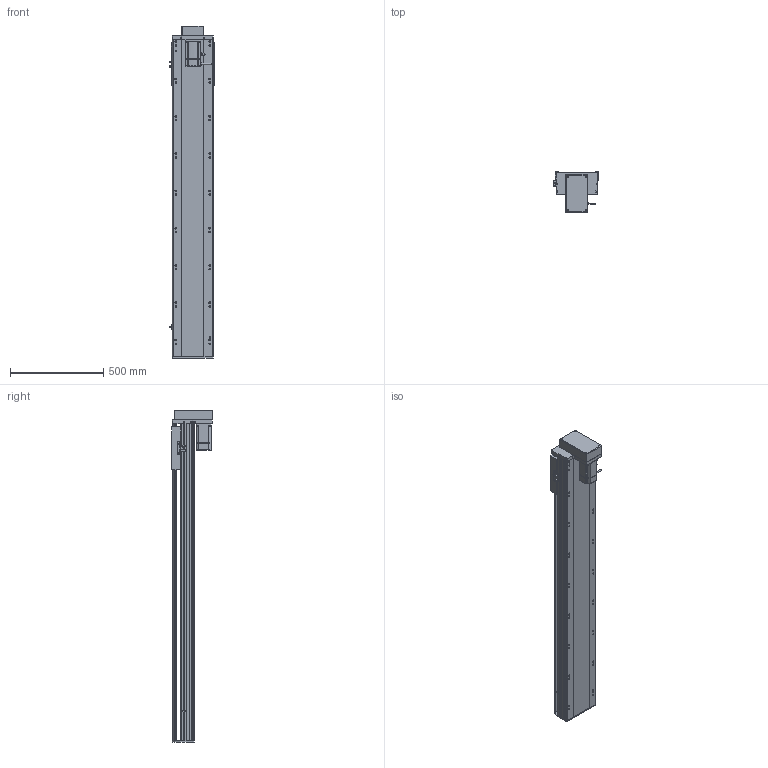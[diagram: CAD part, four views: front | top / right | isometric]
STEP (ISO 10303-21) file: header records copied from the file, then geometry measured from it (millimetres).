
FILE_DESCRIPTION (( 'STEP AP214' ), '1' );
FILE_NAME ('RTH22-XX-1400-M-M75-C4.STEP', '2025-10-24T11:14:58', ( 'Microsoft' ), ( 'Microsoft' ), 'SwSTEP 2.0', 'SolidWorks 2018', '' );
FILE_SCHEMA (( 'AUTOMOTIVE_DESIGN' ));
Length unit declared in the file: millimetre
Products named in the file (10): RTH22-XX-1400-M-M75-C4; N_RTH22-L-004-SFS25賑釱^RTH22-XX-XX-M-M75-C4; N_RTH22-M-007奻裔^RTH22-XX-XX-M-M75-C4; N_OMRON EE-SX672 传感器^RTH22-XX-XX-M-M75-C4; N_RTH22-GY-013外置感应片^RTH22-XX-XX-M-M75-C4; N_RTH22-M-018裔赽^RTH22-XX-XX-M-M75-C4; N_750W萇儂^RTH22-XX-XX-M-M75-C4; N_RTH22-M-008-P75萇儂啣^RTH22-XX-XX-M-M75-C4; N_RTH22-L-011菁釱^RTH22-XX-XX-M-M75-C4; N_RTH22-GY-001耜裔^RTH22-XX-XX-M-M75-C4
Assembly tree (11 placements, depth 2):
  RTH22-XX-1400-M-M75-C4
    N_RTH22-L-011菁釱^RTH22-XX-XX-M-M75-C4
    N_RTH22-GY-001耜裔^RTH22-XX-XX-M-M75-C4
    N_750W萇儂^RTH22-XX-XX-M-M75-C4
    N_RTH22-M-008-P75萇儂啣^RTH22-XX-XX-M-M75-C4
    N_RTH22-M-007奻裔^RTH22-XX-XX-M-M75-C4
    N_RTH22-M-018裔赽^RTH22-XX-XX-M-M75-C4
    N_OMRON EE-SX672 传感器^RTH22-XX-XX-M-M75-C4  x3
    N_RTH22-GY-013外置感应片^RTH22-XX-XX-M-M75-C4
    N_RTH22-L-004-SFS25賑釱^RTH22-XX-XX-M-M75-C4
Bounding box: 238.5 x 218.5 x 1779.7 mm (x, y, z)
Volume: 23512707.3 mm3; surface area: 2527915.8 mm2
Topology: 11 solids, 11 shells, 1659 faces, 4530 edges, 2915 vertices
Faces by surface type: plane 811, cylinder 499, bspline 279, cone 70
Entity records: 42315 total; most frequent: CARTESIAN_POINT 12660, ORIENTED_EDGE 6012, DIRECTION 5720, EDGE_CURVE 3006, VERTEX_POINT 1951, AXIS2_PLACEMENT_3D 1939, LINE 1842, VECTOR 1842
